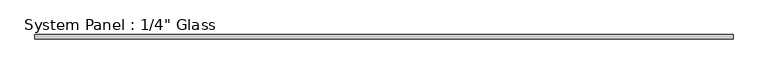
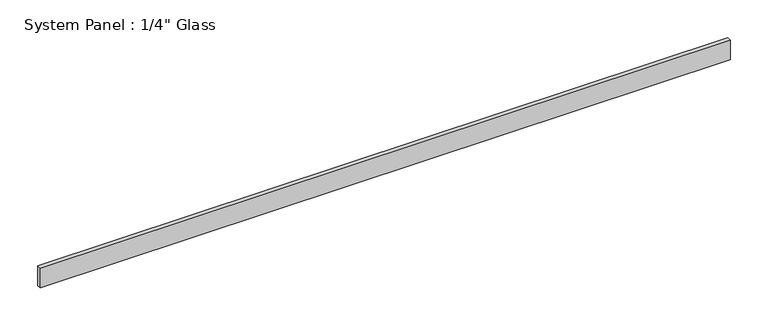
"""IFC4 building model written with IfcOpenShell, lengths in millimetres: plate geometry."""

from ifc_helpers import new_model, si_unit, origin, origin_with_axes, place, context, project, spatial, polyline, outline, extrude, source, transform, mapped, element, save


def plate_68830c21(model_context):
    return source(origin(), model_context, "Body", "SweptSolid", [
        extrude(outline(polyline([(525.8680918, -3.175), (-525.8680918, -3.175), (-525.8680918, 3.175), (525.8680918, 3.175), (525.8680918, -3.175)])), origin_with_axes(), (0.0, 0.0, 1.0), 31.75),
    ])


if __name__ == "__main__":
    model = new_model("IFC4")
    model_context = context("Model", 3, world=origin())
    ifc_project = project(units=[si_unit("LENGTHUNIT", "METRE", prefix="MILLI")], contexts=[model_context])
    site = spatial("IfcSite", under=ifc_project)
    building = spatial("IfcBuilding", under=site)
    placement = place(None, origin())
    plate_shape = plate_68830c21(model_context)
    element("IfcPlate", 1, ObjectType="System Panel : 1/4\" Glass", at=placement, inside=building, context=model_context, shape_type="MappedRepresentation", body=[
        mapped(plate_shape, transform((0.0, 0.0, 0.0), x_axis=(1.0, 0.0, 0.0), y_axis=(0.0, 1.0, 0.0), z_axis=(0.0, 0.0, 1.0))),
    ])
    save(model, "model.ifc")
